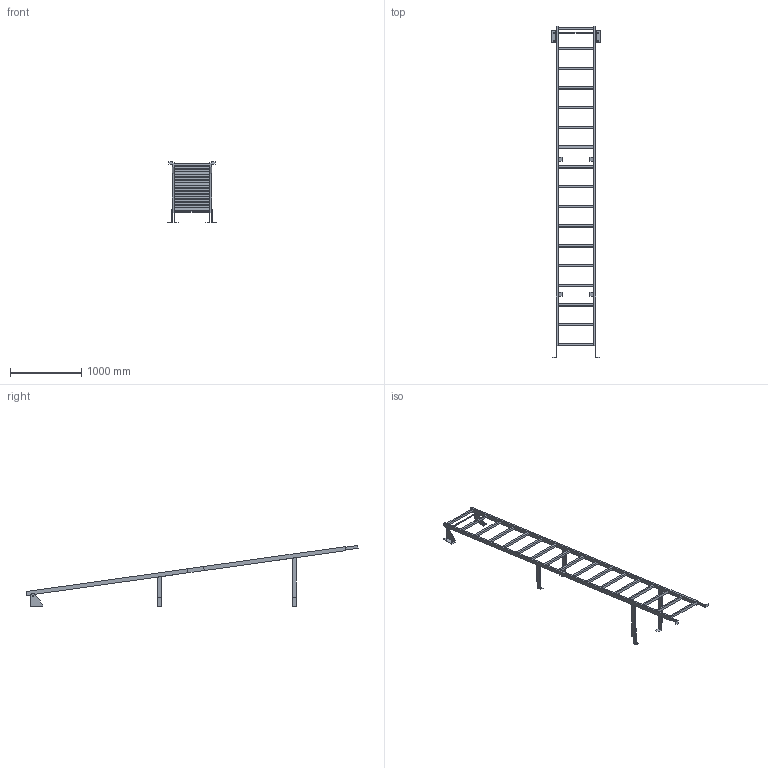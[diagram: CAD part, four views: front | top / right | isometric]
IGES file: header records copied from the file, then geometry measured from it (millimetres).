
Start section:  PTC IGES file: 52310370.igs
Global section: file name: 52310370.igs; native system: Creo Parametric by PTC Inc.; preprocessor: 2022162; author: wep; organization: Unknown; date: 20241017.090831; units: millimetre
Bounding box: 690 x 4664.97 x 856.94 mm (x, y, z)
Surface area: 3120651.5 mm2 (no closed solid volume)
Topology: 0 solids, 0 shells, 200 faces, 1032 edges, 1032 vertices
Faces by surface type: bspline 184, revolution 16
